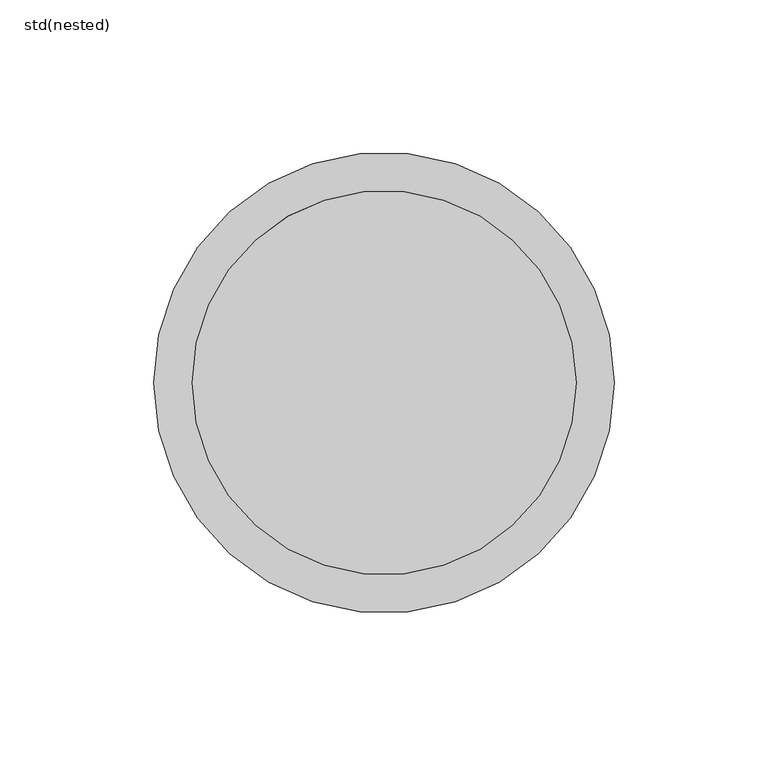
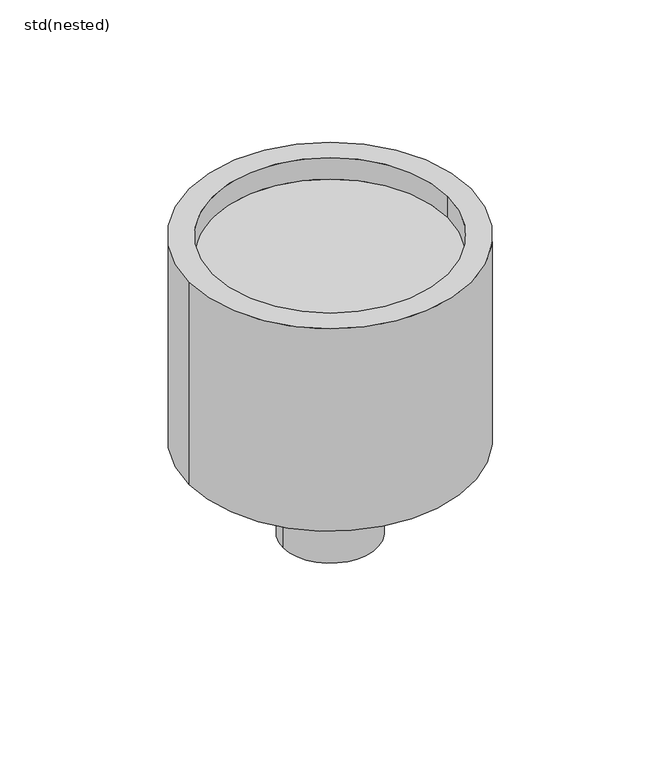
"""IFC4 building model written with IfcOpenShell, lengths in millimetres: pipe fitting geometry, ZZZ_do_not_use_PIF_UN_Gully bodies_Without lateral inlet_ACO : std(nested)."""

from ifc_helpers import new_model, si_unit, point, frame, frame_2d, origin, origin_2d, place, context, project, spatial, polyline, circle_curve, trimmed, segment, composite_curve, outline, extrude, source, transform, mapped, element, save
from ifc_brep_helpers import plane_surface, cylinder_surface, revolved_surface, advanced_brep


def std_nested_5614749a(model_context):
    return source(origin(), model_context, "Body", "SolidModel", [
        extrude(outline(composite_curve([segment(trimmed(circle_curve(frame_2d((0.0, -227.0)), 25.0), [point((-25.0, -227.0))], [point((25.0, -227.0))], False, "CARTESIAN"), True, "CONTINUOUS"), segment(trimmed(circle_curve(frame_2d((0.0, -227.0)), 25.0), [point((25.0, -227.0))], [point((-25.0, -227.0))], False, "CARTESIAN"), True, "CONTINUOUS")], self_intersect=False)), frame((0.5, 0.0, 0.0), z_axis=(1.0, 0.0, 0.0), x_axis=(0.0, 1.0, 0.0)), (0.0, 0.0, 1.0), 69.5),
        extrude(outline(composite_curve([segment(trimmed(circle_curve(origin_2d(), 25.0), [point((-25.0, 0.0))], [point((25.0, 0.0))], False, "CARTESIAN"), True, "CONTINUOUS"), segment(trimmed(circle_curve(origin_2d(), 25.0), [point((25.0, 0.0))], [point((-25.0, 0.0))], False, "CARTESIAN"), True, "CONTINUOUS")], self_intersect=False)), frame((0.0, 0.0, -305.0), z_axis=(0.0, 0.0, 1.0), x_axis=(1.0, 0.0, 0.0)), (0.0, 0.0, 1.0), 53.0),
        advanced_brep(
        [(-75.0, 0.0, -138.0), (75.0, 0.0, -138.0), (62.5, 0.0, -138.0), (-62.5, 0.0, -138.0), (-75.0, 0.0, -252.0), (75.0, 0.0, -252.0), (-62.5, 0.0, -150.0), (62.5, 0.0, -150.0)],
        [
            (0, 1, circle_curve(frame((0.0, 0.0, -138.0), z_axis=(0.0, 0.0, 1.0), x_axis=(1.0, 0.0, 0.0)), 75.0)),
            (1, 0, circle_curve(frame((0.0, 0.0, -138.0), z_axis=(0.0, 0.0, 1.0), x_axis=(1.0, 0.0, 0.0)), 75.0)),
            (2, 3, circle_curve(frame((0.0, 0.0, -138.0), z_axis=(0.0, 0.0, -1.0), x_axis=(1.0, 0.0, 0.0)), 62.5)),
            (3, 2, circle_curve(frame((0.0, 0.0, -138.0), z_axis=(0.0, 0.0, -1.0), x_axis=(1.0, 0.0, 0.0)), 62.5)),
            (4, 5, circle_curve(frame((0.0, 0.0, -252.0), z_axis=(0.0, 0.0, -1.0), x_axis=(1.0, 0.0, 0.0)), 75.0)),
            (5, 4, circle_curve(frame((0.0, 0.0, -252.0), z_axis=(0.0, 0.0, -1.0), x_axis=(1.0, 0.0, 0.0)), 75.0)),
            (0, 4),
            (5, 1),
            (6, 7, circle_curve(frame((0.0, 0.0, -150.0), z_axis=(0.0, 0.0, 1.0), x_axis=(1.0, 0.0, 0.0)), 62.5)),
            (7, 6, circle_curve(frame((0.0, 0.0, -150.0), z_axis=(0.0, 0.0, 1.0), x_axis=(1.0, 0.0, 0.0)), 62.5)),
            (6, 3),
            (2, 7),
        ],
        [
            plane_surface(frame((75.0, 0.0, -138.0), z_axis=(0.0, 0.0, 1.0), x_axis=(0.0, 1.0, 0.0))),
            plane_surface(frame((75.0, 0.0, -252.0), z_axis=(0.0, 0.0, -1.0), x_axis=(0.0, -1.0, 0.0))),
            cylinder_surface(frame((0.0, 0.0, -252.0), z_axis=(0.0, 0.0, 1.0), x_axis=(1.0, 0.0, 0.0)), 75.0),
            plane_surface(frame((62.5, 0.0, -150.0), z_axis=(0.0, 0.0, 1.0), x_axis=(0.0, -1.0, 0.0))),
            revolved_surface(polyline([(62.5, 0.0, -138.0), (62.5, 0.0, -150.0)]), (0.0, 0.0, -150.0), (0.0, 0.0, 1.0)),
        ],
        [
            (0, [[1, 2], [3, 4]]),
            (1, [[5, 6]]),
            (2, [[-1, 7, -6, 8]]),
            (2, [[-2, -8, -5, -7]]),
            (3, [[9, 10]]),
            (4, [[-9, 11, -3, 12]]),
            (4, [[-10, -12, -4, -11]]),
        ],
    ),
    ])


if __name__ == "__main__":
    model = new_model("IFC4")
    model_context = context("Model", 3, world=origin())
    ifc_project = project(units=[si_unit("LENGTHUNIT", "METRE", prefix="MILLI")], contexts=[model_context])
    site = spatial("IfcSite", under=ifc_project)
    building = spatial("IfcBuilding", under=site)
    placement = place(None, origin())
    std_nested_shape = std_nested_5614749a(model_context)
    element("IfcPipeFitting", 1, ObjectType="ZZZ_do_not_use_PIF_UN_Gully bodies_Without lateral inlet_ACO : std(nested)", at=placement, inside=building, context=model_context, shape_type="MappedRepresentation", body=[
        mapped(std_nested_shape, transform((0.0, 0.0, 0.0), x_axis=(1.0, 0.0, 0.0), y_axis=(0.0, 1.0, 0.0), z_axis=(0.0, 0.0, 1.0))),
    ])
    save(model, "model.ifc")
